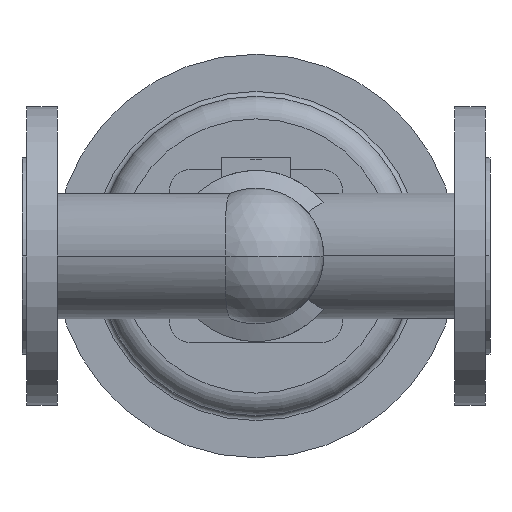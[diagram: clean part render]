
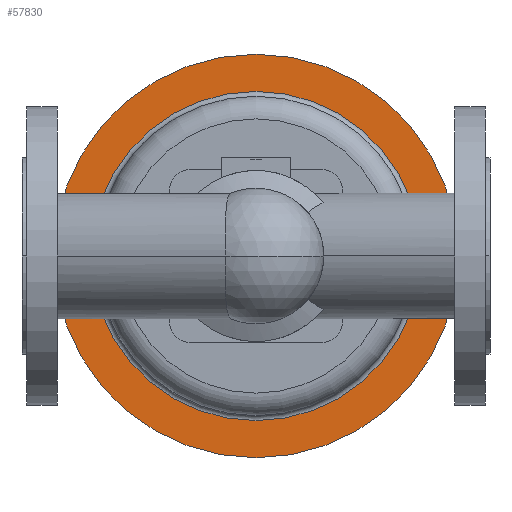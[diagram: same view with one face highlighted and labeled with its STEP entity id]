
A CAD part, front view. The second image highlights one B-rep face of the part: STEP entity #57830.
In plain terms, the highlighted planar face has unit normal (0, -1, 0).
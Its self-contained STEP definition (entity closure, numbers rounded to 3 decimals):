
#57240=CARTESIAN_POINT('',(145.,644.5,0.));
#57250=DIRECTION('',(0.,1.,0.));
#57260=DIRECTION('',(1.,0.,0.));
#57270=AXIS2_PLACEMENT_3D('',#57240,#57250,#57260);
#57280=CIRCLE('',#57270,102.);
#57290=CARTESIAN_POINT('',(145.,644.5,-102.));
#57300=VERTEX_POINT('',#57290);
#57310=CARTESIAN_POINT('',(43.,644.5,0.));
#57320=VERTEX_POINT('',#57310);
#57330=EDGE_CURVE('',#57300,#57320,#57280,.T.);
#57480=CARTESIAN_POINT('',(247.,644.5,0.));
#57490=VERTEX_POINT('',#57480);
#57520=EDGE_CURVE('',#57490,#57300,#57280,.T.);
#57570=CARTESIAN_POINT('',(258.5,644.5,0.));
#57580=DIRECTION('',(0.,-1.,0.));
#57590=DIRECTION('',(-1.,0.,0.));
#57600=AXIS2_PLACEMENT_3D('',#57570,#57580,#57590);
#57610=PLANE('',#57600);
#57620=CARTESIAN_POINT('',(145.,644.5,0.));
#57630=DIRECTION('',(0.,1.,0.));
#57640=DIRECTION('',(1.,0.,0.));
#57650=AXIS2_PLACEMENT_3D('',#57620,#57630,#57640);
#57660=CIRCLE('',#57650,125.);
#57670=CARTESIAN_POINT('',(270.,644.5,0.));
#57680=VERTEX_POINT('',#57670);
#57690=CARTESIAN_POINT('',(20.,644.5,0.));
#57700=VERTEX_POINT('',#57690);
#57710=EDGE_CURVE('',#57680,#57700,#57660,.T.);
#57720=ORIENTED_EDGE('',*,*,#57710,.F.);
#57730=EDGE_CURVE('',#57700,#57680,#57660,.T.);
#57740=ORIENTED_EDGE('',*,*,#57730,.F.);
#57750=EDGE_LOOP('',(#57740,#57720));
#57760=FACE_OUTER_BOUND('',#57750,.T.);
#57770=EDGE_CURVE('',#57320,#57490,#57280,.T.);
#57780=ORIENTED_EDGE('',*,*,#57770,.T.);
#57790=ORIENTED_EDGE('',*,*,#57330,.T.);
#57800=ORIENTED_EDGE('',*,*,#57520,.T.);
#57810=EDGE_LOOP('',(#57800,#57790,#57780));
#57820=FACE_BOUND('',#57810,.T.);
#57830=ADVANCED_FACE('',(#57760,#57820),#57610,.T.);
